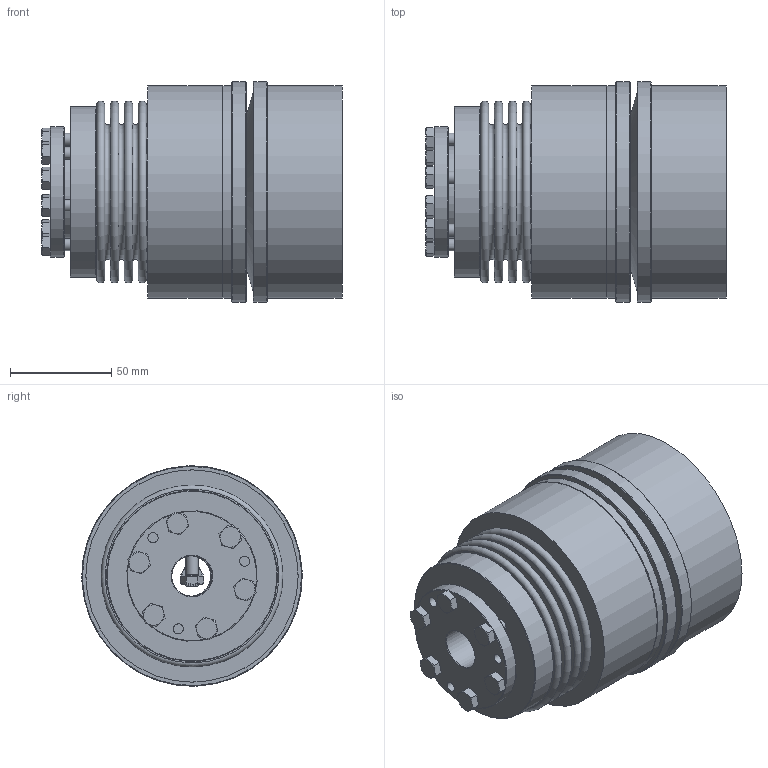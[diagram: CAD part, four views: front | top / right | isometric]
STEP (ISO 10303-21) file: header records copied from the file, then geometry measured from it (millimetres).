
FILE_DESCRIPTION( ( 'Unknown' ), '1' );
FILE_NAME( 'C:/Dokumente und Einstellungen/SKarpstein/Desktop/Korrigierte 3D Modelle/KBK-B-II/KBK-BII-200-125.stp', 'Unknown', ( 'Unknown' ), ( 'Unknown' ), 'XStep 1.0', 'Unknown', ' ' );
FILE_SCHEMA( ( 'automotive_design' ) );
Length unit declared in the file: millimetre
Products named in the file (12): Assem1; Assem2; BA200_Standard_3; Hex Screw GradeC_ISO_ISO 4018 - M6 x 25-NN_3; KB200_Standard_3; Stellring 200; Druckring 200; KBK L-I-200 Grundkörper; Konusbuchse 200; din_en_24017_m6x25_0; BK200_Standard_0; Flansch BI200
Bounding box: 148.45 x 109 x 109 mm (x, y, z)
Volume: 1233046.3 mm3; surface area: 426106.4 mm2
Topology: 38 solids, 38 shells, 810 faces, 1714 edges, 1088 vertices
Faces by surface type: plane 340, cone 241, cylinder 179, torus 50
Full cylindrical faces by diameter (mm): 3.242 x6, 4.917 x18, 5 x9, 5.2 x12, 6 x38, 6.5 x30, 8.8 x7, 20 x7, 46 x5, 47 x2, 50 x4, 60 x2, 62 x2, 63 x3, 64 x2, 64.5 x3, 65 x2, 66 x4, 77 x2, 79.2 x4, 80.4 x4, 84.5 x3, 90 x2, 98 x2, 105 x4, 109 x2
Entity records: 6561 total; most frequent: CARTESIAN_POINT 1337, DIRECTION 1064, ORIENTED_EDGE 670, AXIS2_PLACEMENT_3D 508, EDGE_LOOP 476, EDGE_CURVE 335, FACE_OUTER_BOUND 328, VERTEX_POINT 287
